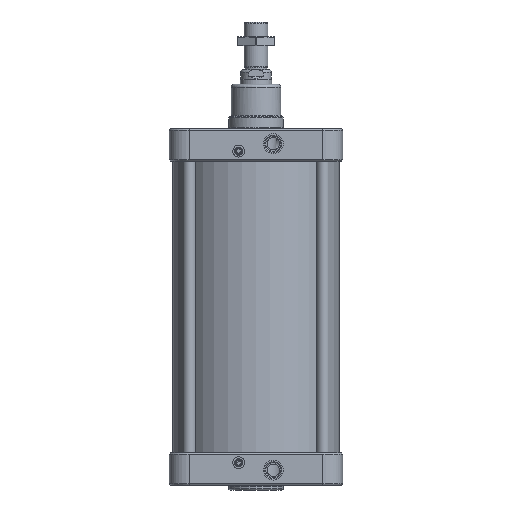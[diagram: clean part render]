
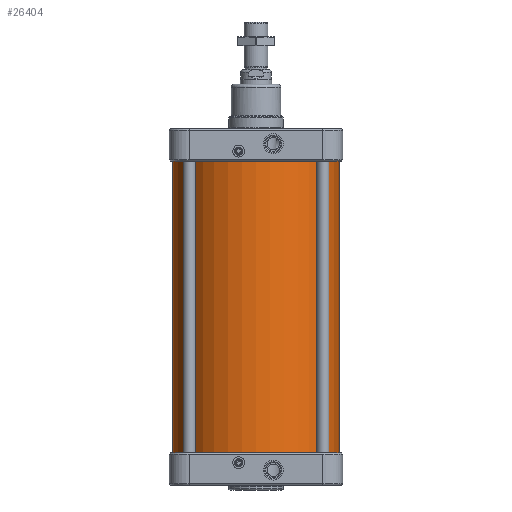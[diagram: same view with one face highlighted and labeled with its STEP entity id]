
A CAD part, front view. The second image highlights one B-rep face of the part: STEP entity #26404.
In plain terms, the highlighted cylindrical face has radius 168 mm (diameter 336 mm), a full revolution.
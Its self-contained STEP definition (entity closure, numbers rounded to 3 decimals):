
#2804=CIRCLE('',#29645,168.);
#2805=CIRCLE('',#29647,168.);
#3478=FACE_BOUND('',#7098,.T.);
#5147=FACE_OUTER_BOUND('',#7097,.T.);
#7097=EDGE_LOOP('',(#22547));
#7098=EDGE_LOOP('',(#22548));
#11979=VERTEX_POINT('',#64759);
#11980=VERTEX_POINT('',#64762);
#15511=EDGE_CURVE('',#11979,#11979,#2804,.T.);
#15512=EDGE_CURVE('',#11980,#11980,#2805,.T.);
#22547=ORIENTED_EDGE('',*,*,#15511,.T.);
#22548=ORIENTED_EDGE('',*,*,#15512,.T.);
#23070=CYLINDRICAL_SURFACE('',#29646,168.);
#26404=ADVANCED_FACE('',(#5147,#3478),#23070,.T.);
#29645=AXIS2_PLACEMENT_3D('',#64760,#36878,#36879);
#29646=AXIS2_PLACEMENT_3D('',#64761,#36880,#36881);
#29647=AXIS2_PLACEMENT_3D('',#64763,#36882,#36883);
#36878=DIRECTION('center_axis',(0.,0.,1.));
#36879=DIRECTION('ref_axis',(-1.,0.,0.));
#36880=DIRECTION('center_axis',(0.,0.,1.));
#36881=DIRECTION('ref_axis',(-1.,0.,0.));
#36882=DIRECTION('center_axis',(0.,0.,-1.));
#36883=DIRECTION('ref_axis',(-1.,0.,0.));
#64759=CARTESIAN_POINT('',(168.,0.,-295.));
#64760=CARTESIAN_POINT('Origin',(0.,0.,-295.));
#64761=CARTESIAN_POINT('Origin',(0.,0.,0.));
#64762=CARTESIAN_POINT('',(168.,0.,295.));
#64763=CARTESIAN_POINT('Origin',(0.,0.,295.));
